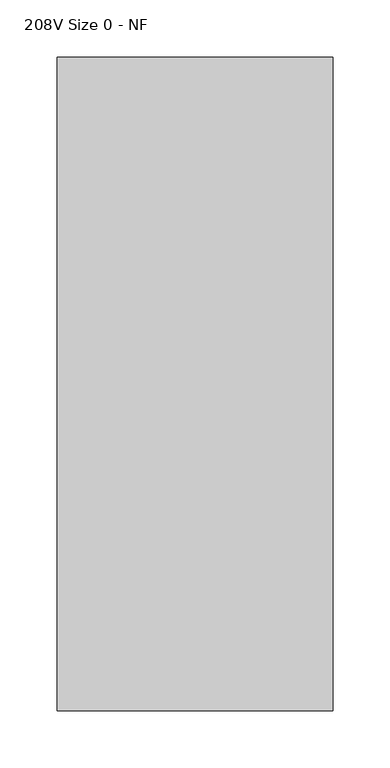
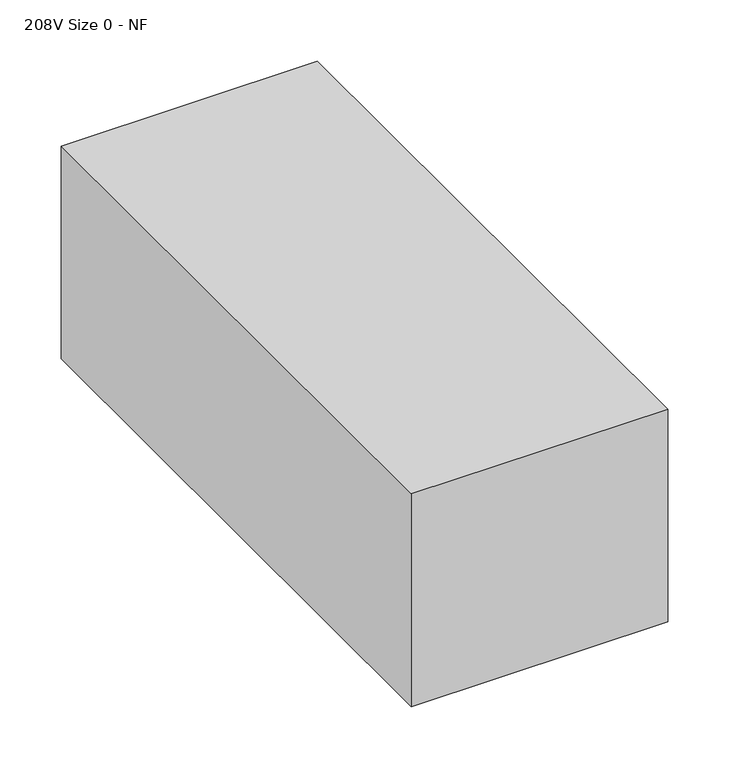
"""IFC4 building model written with IfcOpenShell, lengths in millimetres: proxy geometry, BA_EF - Disconnect or Starter : 208V Size 0 - NF."""

from ifc_helpers import new_model, si_unit, frame, origin, origin_with_axes, place, context, project, spatial, polyline, outline, extrude, source, transform, mapped, element, save


def proxy_208v_size_0_nf_25e77b5b(model_context):
    return source(origin(), model_context, "Body", "SweptSolid", [
        extrude(outline(polyline([(-133.35, -6.35), (-133.35, -565.15), (-311.15, -565.15), (-311.15, -6.35), (-133.35, -6.35)])), frame((0.0, 0.0, 177.8), z_axis=(0.0, 0.0, 1.0), x_axis=(1.0, 0.0, 0.0)), (0.0, 0.0, 1.0), 12.7),
        extrude(outline(polyline([(-82.55, 0.0), (-82.55, -571.5), (-323.85, -571.5), (-323.85, 0.0), (-82.55, 0.0)])), origin_with_axes(), (0.0, 0.0, 1.0), 211.93125),
    ])


if __name__ == "__main__":
    model = new_model("IFC4")
    model_context = context("Model", 3, world=origin())
    ifc_project = project(units=[si_unit("LENGTHUNIT", "METRE", prefix="MILLI")], contexts=[model_context])
    site = spatial("IfcSite", under=ifc_project)
    building = spatial("IfcBuilding", under=site)
    placement = place(None, origin())
    proxy_208v_size_0_nf_shape = proxy_208v_size_0_nf_25e77b5b(model_context)
    element("IfcBuildingElementProxy", 1, Name="BA_EF - Disconnect or Starter : 208V Size 0 - NF", ObjectType="BA_EF - Disconnect or Starter : 208V Size 0 - NF", at=placement, inside=building, context=model_context, shape_type="MappedRepresentation", body=[
        mapped(proxy_208v_size_0_nf_shape, transform((0.0, 0.0, 0.0), x_axis=(1.0, 0.0, 0.0), y_axis=(0.0, 1.0, 0.0), z_axis=(0.0, 0.0, 1.0))),
    ])
    save(model, "model.ifc")
